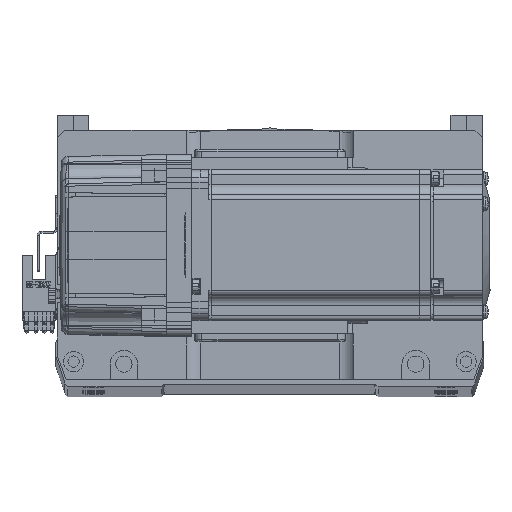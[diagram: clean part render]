
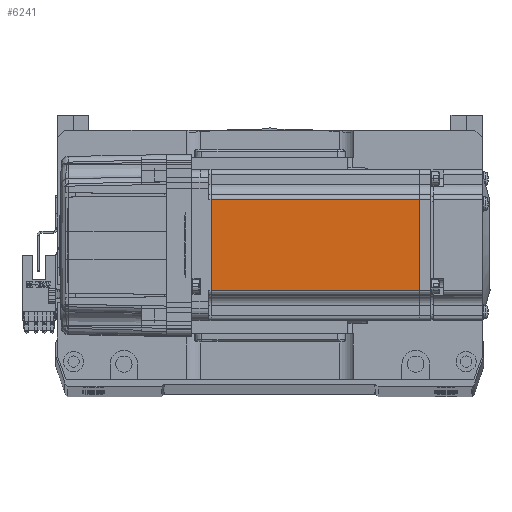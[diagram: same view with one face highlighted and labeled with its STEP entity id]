
A CAD part, top view. The second image highlights one B-rep face of the part: STEP entity #6241.
In plain terms, the highlighted planar face has unit normal (0, 0, 1) as drawn and (0, -1, 0) by its records, which use the part's own axes.
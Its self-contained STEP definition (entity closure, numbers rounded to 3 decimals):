
#251 = DIRECTION ( 'NONE',  ( 1., 0., 0. ) ) ;
#3457 = VERTEX_POINT ( 'NONE', #39726 ) ;
#3573 = LINE ( 'NONE', #66391, #59230 ) ;
#6192 = ORIENTED_EDGE ( 'NONE', *, *, #43798, .T. ) ;
#6241 = ADVANCED_FACE ( 'NONE', ( #59540 ), #39789, .T. ) ;
#6930 = VERTEX_POINT ( 'NONE', #29405 ) ;
#7738 = DIRECTION ( 'NONE',  ( 0., 0., -1. ) ) ;
#11560 = LINE ( 'NONE', #15612, #59857 ) ;
#11895 = DIRECTION ( 'NONE',  ( 0., 0., -1. ) ) ;
#15612 = CARTESIAN_POINT ( 'NONE',  ( -6.5, -30., -18. ) ) ;
#16493 = LINE ( 'NONE', #62971, #67187 ) ;
#17130 = VECTOR ( 'NONE', #11895, 1000. ) ;
#22020 = DIRECTION ( 'NONE',  ( 0., 0., 1. ) ) ;
#22182 = CARTESIAN_POINT ( 'NONE',  ( -90.45, -30., -25. ) ) ;
#22694 = ORIENTED_EDGE ( 'NONE', *, *, #65053, .T. ) ;
#25493 = DIRECTION ( 'NONE',  ( -1., 0., 0. ) ) ;
#29405 = CARTESIAN_POINT ( 'NONE',  ( -7.75, -30., -18. ) ) ;
#36671 = ORIENTED_EDGE ( 'NONE', *, *, #62408, .T. ) ;
#39726 = CARTESIAN_POINT ( 'NONE',  ( -90.45, -30., 18. ) ) ;
#39789 = PLANE ( 'NONE',  #44618 ) ;
#43111 = CARTESIAN_POINT ( 'NONE',  ( -7.75, -30., 18. ) ) ;
#43302 = VERTEX_POINT ( 'NONE', #43111 ) ;
#43798 = EDGE_CURVE ( 'NONE', #63835, #6930, #11560, .T. ) ;
#44618 = AXIS2_PLACEMENT_3D ( 'NONE', #45235, #60575, #7738 ) ;
#44958 = LINE ( 'NONE', #22182, #17130 ) ;
#45235 = CARTESIAN_POINT ( 'NONE',  ( -6.5, -30., -25. ) ) ;
#53308 = ORIENTED_EDGE ( 'NONE', *, *, #59213, .T. ) ;
#55719 = EDGE_LOOP ( 'NONE', ( #53308, #22694, #36671, #6192 ) ) ;
#57670 = CARTESIAN_POINT ( 'NONE',  ( -90.45, -30., -18. ) ) ;
#59213 = EDGE_CURVE ( 'NONE', #6930, #43302, #16493, .T. ) ;
#59230 = VECTOR ( 'NONE', #25493, 1000. ) ;
#59540 = FACE_OUTER_BOUND ( 'NONE', #55719, .T. ) ;
#59857 = VECTOR ( 'NONE', #251, 1000. ) ;
#60575 = DIRECTION ( 'NONE',  ( 0., -1., 0. ) ) ;
#62408 = EDGE_CURVE ( 'NONE', #3457, #63835, #44958, .T. ) ;
#62971 = CARTESIAN_POINT ( 'NONE',  ( -7.75, -30., -25. ) ) ;
#63835 = VERTEX_POINT ( 'NONE', #57670 ) ;
#65053 = EDGE_CURVE ( 'NONE', #43302, #3457, #3573, .T. ) ;
#66391 = CARTESIAN_POINT ( 'NONE',  ( -6.5, -30., 18. ) ) ;
#67187 = VECTOR ( 'NONE', #22020, 1000. ) ;
